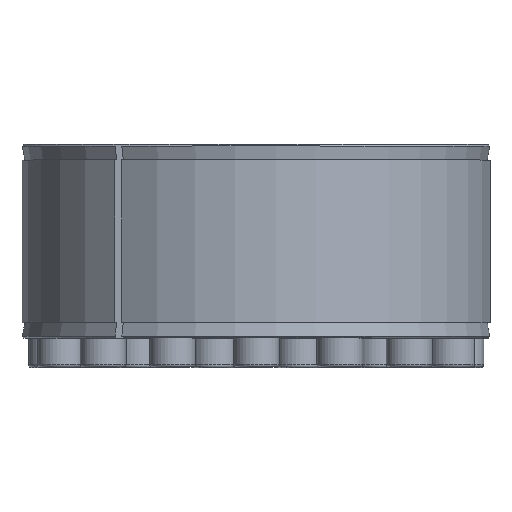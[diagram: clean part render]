
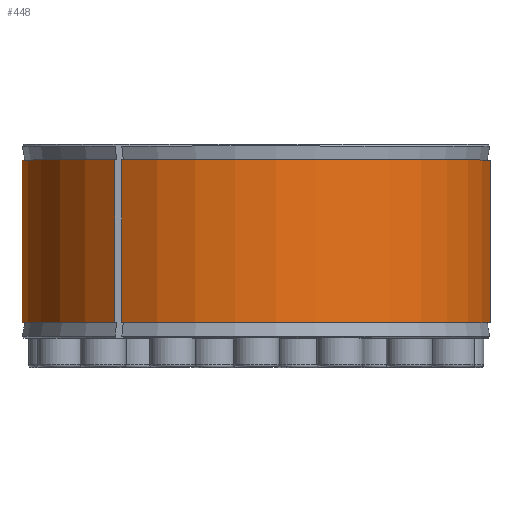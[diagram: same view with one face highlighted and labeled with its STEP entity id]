
A CAD part, top view. The second image highlights one B-rep face of the part: STEP entity #448.
In plain terms, the highlighted cylindrical face has radius 112.5 mm (diameter 225 mm), a partial arc.
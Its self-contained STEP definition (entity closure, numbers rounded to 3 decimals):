
#448 = ADVANCED_FACE( '', ( #787 ), #788, .T. );
#787 = FACE_OUTER_BOUND( '', #1124, .T. );
#788 = CYLINDRICAL_SURFACE( '', #1125, 112.5 );
#1124 = EDGE_LOOP( '', ( #1741, #1742, #1743, #1744 ) );
#1125 = AXIS2_PLACEMENT_3D( '', #1745, #1746, #1747 );
#1741 = ORIENTED_EDGE( '', *, *, #2313, .T. );
#1742 = ORIENTED_EDGE( '', *, *, #2277, .T. );
#1743 = ORIENTED_EDGE( '', *, *, #2336, .F. );
#1744 = ORIENTED_EDGE( '', *, *, #2420, .T. );
#1745 = CARTESIAN_POINT( '', ( 0., -60., 0. ) );
#1746 = DIRECTION( '', ( 0., 1., 0. ) );
#1747 = DIRECTION( '', ( 0., 0., -1. ) );
#2277 = EDGE_CURVE( '', #2597, #2595, #2598, .T. );
#2313 = EDGE_CURVE( '', #2663, #2597, #2664, .T. );
#2336 = EDGE_CURVE( '', #2705, #2595, #2706, .T. );
#2420 = EDGE_CURVE( '', #2705, #2663, #2848, .F. );
#2595 = VERTEX_POINT( '', #3037 );
#2597 = VERTEX_POINT( '', #3040 );
#2598 = LINE( '', #3041, #3042 );
#2663 = VERTEX_POINT( '', #3132 );
#2664 = CIRCLE( '', #3133, 112.5 );
#2705 = VERTEX_POINT( '', #3182 );
#2706 = CIRCLE( '', #3183, 112.5 );
#2848 = LINE( '', #3744, #3745 );
#3037 = CARTESIAN_POINT( '', ( -64.497, 7.5, 92.176 ) );
#3040 = CARTESIAN_POINT( '', ( -64.497, 85.5, 92.176 ) );
#3041 = CARTESIAN_POINT( '', ( -64.497, -60., 92.176 ) );
#3042 = VECTOR( '', #3882, 1000. );
#3132 = CARTESIAN_POINT( '', ( -67.733, 85.5, 89.824 ) );
#3133 = AXIS2_PLACEMENT_3D( '', #3959, #3960, #3961 );
#3182 = CARTESIAN_POINT( '', ( -67.733, 7.5, 89.824 ) );
#3183 = AXIS2_PLACEMENT_3D( '', #4018, #4019, #4020 );
#3744 = CARTESIAN_POINT( '', ( -67.733, -60., 89.824 ) );
#3745 = VECTOR( '', #4206, 1000. );
#3882 = DIRECTION( '', ( 0., -1., 0. ) );
#3959 = CARTESIAN_POINT( '', ( 0., 85.5, 0. ) );
#3960 = DIRECTION( '', ( 0., -1., 0. ) );
#3961 = DIRECTION( '', ( 0., 0., -1. ) );
#4018 = CARTESIAN_POINT( '', ( 0., 7.5, 0. ) );
#4019 = DIRECTION( '', ( 0., -1., 0. ) );
#4020 = DIRECTION( '', ( 0., 0., -1. ) );
#4206 = DIRECTION( '', ( 0., -1., 0. ) );
